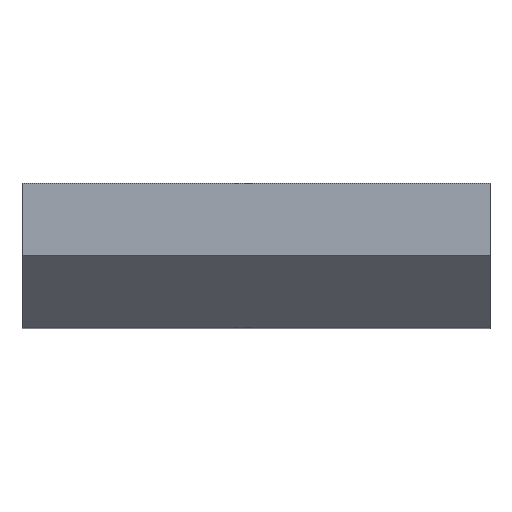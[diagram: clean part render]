
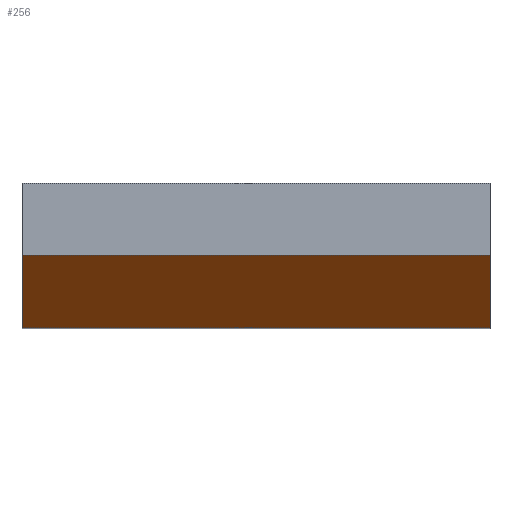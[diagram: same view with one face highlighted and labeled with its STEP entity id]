
A CAD part, top view. The second image highlights one B-rep face of the part: STEP entity #256.
In plain terms, the highlighted planar face has unit normal (0, -0.707, 0.707).
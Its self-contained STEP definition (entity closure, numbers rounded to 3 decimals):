
#39 = VERTEX_POINT('',#40);
#40 = CARTESIAN_POINT('',(0.,0.,18.41));
#47 = PLANE('',#48);
#48 = AXIS2_PLACEMENT_3D('',#49,#50,#51);
#49 = CARTESIAN_POINT('',(0.,0.,0.));
#50 = DIRECTION('',(1.,0.,0.));
#51 = DIRECTION('',(0.,0.,1.));
#59 = PLANE('',#60);
#60 = AXIS2_PLACEMENT_3D('',#61,#62,#63);
#61 = CARTESIAN_POINT('',(0.,0.,0.));
#62 = DIRECTION('',(0.,1.,0.));
#63 = DIRECTION('',(0.,0.,1.));
#128 = VERTEX_POINT('',#129);
#129 = CARTESIAN_POINT('',(0.,2.41,20.82));
#143 = PLANE('',#144);
#144 = AXIS2_PLACEMENT_3D('',#145,#146,#147);
#145 = CARTESIAN_POINT('',(0.,0.,20.82));
#146 = DIRECTION('',(0.,0.,1.));
#147 = DIRECTION('',(1.,0.,0.));
#155 = EDGE_CURVE('',#39,#128,#156,.T.);
#156 = SURFACE_CURVE('',#157,(#161,#168),.PCURVE_S1.);
#157 = LINE('',#158,#159);
#158 = CARTESIAN_POINT('',(0.,-4.,14.41));
#159 = VECTOR('',#160,1.);
#160 = DIRECTION('',(-0.,0.707,0.707));
#161 = PCURVE('',#47,#162);
#162 = DEFINITIONAL_REPRESENTATION('',(#163),#167);
#163 = LINE('',#164,#165);
#164 = CARTESIAN_POINT('',(14.41,4.));
#165 = VECTOR('',#166,1.);
#166 = DIRECTION('',(0.707,-0.707));
#167 = ( GEOMETRIC_REPRESENTATION_CONTEXT(2) 
PARAMETRIC_REPRESENTATION_CONTEXT() REPRESENTATION_CONTEXT('2D SPACE',''
  ) );
#168 = PCURVE('',#169,#174);
#169 = PLANE('',#170);
#170 = AXIS2_PLACEMENT_3D('',#171,#172,#173);
#171 = CARTESIAN_POINT('',(0.,1.205,19.615));
#172 = DIRECTION('',(0.,0.707,-0.707));
#173 = DIRECTION('',(-1.,-0.,-0.));
#174 = DEFINITIONAL_REPRESENTATION('',(#175),#179);
#175 = LINE('',#176,#177);
#176 = CARTESIAN_POINT('',(-0.,-7.361));
#177 = VECTOR('',#178,1.);
#178 = DIRECTION('',(-0.,1.));
#179 = ( GEOMETRIC_REPRESENTATION_CONTEXT(2) 
PARAMETRIC_REPRESENTATION_CONTEXT() REPRESENTATION_CONTEXT('2D SPACE',''
  ) );
#187 = VERTEX_POINT('',#188);
#188 = CARTESIAN_POINT('',(15.62,0.,18.41));
#202 = PLANE('',#203);
#203 = AXIS2_PLACEMENT_3D('',#204,#205,#206);
#204 = CARTESIAN_POINT('',(15.62,0.,0.));
#205 = DIRECTION('',(1.,0.,0.));
#206 = DIRECTION('',(0.,0.,1.));
#236 = EDGE_CURVE('',#39,#187,#237,.T.);
#237 = SURFACE_CURVE('',#238,(#242,#249),.PCURVE_S1.);
#238 = LINE('',#239,#240);
#239 = CARTESIAN_POINT('',(0.,0.,18.41));
#240 = VECTOR('',#241,1.);
#241 = DIRECTION('',(1.,0.,0.));
#242 = PCURVE('',#59,#243);
#243 = DEFINITIONAL_REPRESENTATION('',(#244),#248);
#244 = LINE('',#245,#246);
#245 = CARTESIAN_POINT('',(18.41,0.));
#246 = VECTOR('',#247,1.);
#247 = DIRECTION('',(0.,1.));
#248 = ( GEOMETRIC_REPRESENTATION_CONTEXT(2) 
PARAMETRIC_REPRESENTATION_CONTEXT() REPRESENTATION_CONTEXT('2D SPACE',''
  ) );
#249 = PCURVE('',#169,#250);
#250 = DEFINITIONAL_REPRESENTATION('',(#251),#255);
#251 = LINE('',#252,#253);
#252 = CARTESIAN_POINT('',(-0.,-1.704));
#253 = VECTOR('',#254,1.);
#254 = DIRECTION('',(-1.,0.));
#255 = ( GEOMETRIC_REPRESENTATION_CONTEXT(2) 
PARAMETRIC_REPRESENTATION_CONTEXT() REPRESENTATION_CONTEXT('2D SPACE',''
  ) );
#256 = ADVANCED_FACE('',(#257),#169,.F.);
#257 = FACE_BOUND('',#258,.T.);
#258 = EDGE_LOOP('',(#259,#260,#261,#284));
#259 = ORIENTED_EDGE('',*,*,#155,.F.);
#260 = ORIENTED_EDGE('',*,*,#236,.T.);
#261 = ORIENTED_EDGE('',*,*,#262,.T.);
#262 = EDGE_CURVE('',#187,#263,#265,.T.);
#263 = VERTEX_POINT('',#264);
#264 = CARTESIAN_POINT('',(15.62,2.41,20.82));
#265 = SURFACE_CURVE('',#266,(#270,#277),.PCURVE_S1.);
#266 = LINE('',#267,#268);
#267 = CARTESIAN_POINT('',(15.62,-4.,14.41));
#268 = VECTOR('',#269,1.);
#269 = DIRECTION('',(-0.,0.707,0.707));
#270 = PCURVE('',#169,#271);
#271 = DEFINITIONAL_REPRESENTATION('',(#272),#276);
#272 = LINE('',#273,#274);
#273 = CARTESIAN_POINT('',(-15.62,-7.361));
#274 = VECTOR('',#275,1.);
#275 = DIRECTION('',(-0.,1.));
#276 = ( GEOMETRIC_REPRESENTATION_CONTEXT(2) 
PARAMETRIC_REPRESENTATION_CONTEXT() REPRESENTATION_CONTEXT('2D SPACE',''
  ) );
#277 = PCURVE('',#202,#278);
#278 = DEFINITIONAL_REPRESENTATION('',(#279),#283);
#279 = LINE('',#280,#281);
#280 = CARTESIAN_POINT('',(14.41,4.));
#281 = VECTOR('',#282,1.);
#282 = DIRECTION('',(0.707,-0.707));
#283 = ( GEOMETRIC_REPRESENTATION_CONTEXT(2) 
PARAMETRIC_REPRESENTATION_CONTEXT() REPRESENTATION_CONTEXT('2D SPACE',''
  ) );
#284 = ORIENTED_EDGE('',*,*,#285,.F.);
#285 = EDGE_CURVE('',#128,#263,#286,.T.);
#286 = SURFACE_CURVE('',#287,(#291,#298),.PCURVE_S1.);
#287 = LINE('',#288,#289);
#288 = CARTESIAN_POINT('',(0.,2.41,20.82));
#289 = VECTOR('',#290,1.);
#290 = DIRECTION('',(1.,0.,0.));
#291 = PCURVE('',#169,#292);
#292 = DEFINITIONAL_REPRESENTATION('',(#293),#297);
#293 = LINE('',#294,#295);
#294 = CARTESIAN_POINT('',(-0.,1.704));
#295 = VECTOR('',#296,1.);
#296 = DIRECTION('',(-1.,0.));
#297 = ( GEOMETRIC_REPRESENTATION_CONTEXT(2) 
PARAMETRIC_REPRESENTATION_CONTEXT() REPRESENTATION_CONTEXT('2D SPACE',''
  ) );
#298 = PCURVE('',#143,#299);
#299 = DEFINITIONAL_REPRESENTATION('',(#300),#304);
#300 = LINE('',#301,#302);
#301 = CARTESIAN_POINT('',(0.,2.41));
#302 = VECTOR('',#303,1.);
#303 = DIRECTION('',(1.,0.));
#304 = ( GEOMETRIC_REPRESENTATION_CONTEXT(2) 
PARAMETRIC_REPRESENTATION_CONTEXT() REPRESENTATION_CONTEXT('2D SPACE',''
  ) );
